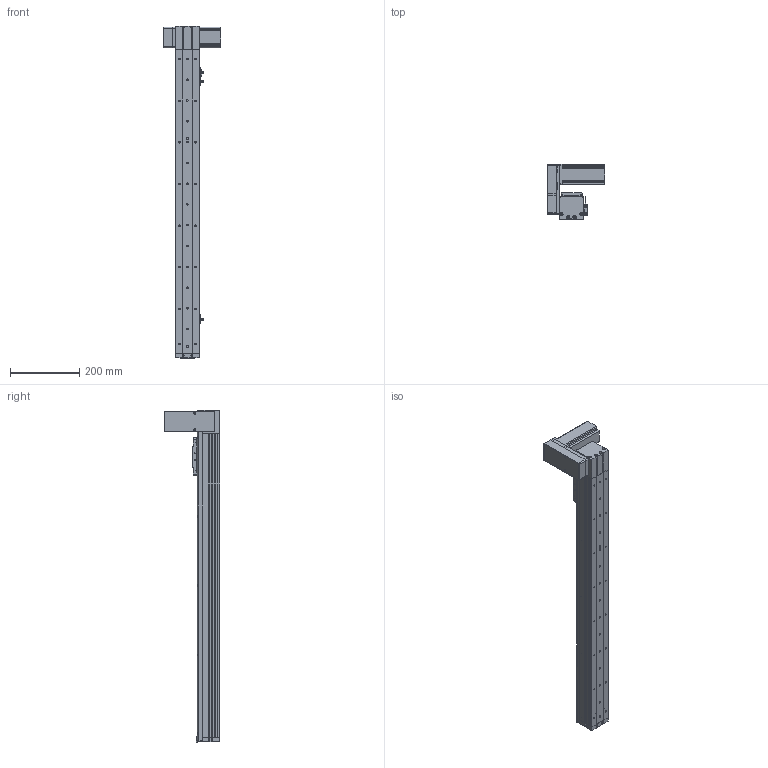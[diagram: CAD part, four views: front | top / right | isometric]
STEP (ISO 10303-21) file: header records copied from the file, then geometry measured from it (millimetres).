
FILE_DESCRIPTION (( 'STEP AP214' ), '1' );
FILE_NAME ('KSD68BS-S700-MRU-CR.STEP', '2019-08-28T06:21:35', ( '微软用户' ), ( '微软中国' ), 'SwSTEP 2.0', 'SolidWorks 2014', '' );
FILE_SCHEMA (( 'AUTOMOTIVE_DESIGN' ));
Length unit declared in the file: millimetre
Products named in the file (14): KSD68BS 700行程侧板全封闭; 68宽单导轨全封闭同步带端板; 68单导轨全封闭同步带电机座右; 68单导轨全封闭同步带安装板; 悵誘欶奻狟殏; 68遵裔啣揤啣1; KSD68BS 700行程盖板全封闭; 68宽马达安装板连板上折同步带; 感应片68宽全封闭; U倰嫖萇EEㄜSX672; 台达ECMA－C20604AS伺服电机（400W); KSD68BS 700行程底板全封闭; KSD68BS-S700-MRU-CR; 68宽单导轨全封闭丝杆传动安装板1防护罩
Assembly tree (16 placements, depth 2):
  KSD68BS-S700-MRU-CR
    KSD68BS 700行程底板全封闭
    台达ECMA－C20604AS伺服电机（400W)
    U倰嫖萇EEㄜSX672  x3
    感应片68宽全封闭
    68宽马达安装板连板上折同步带
    悵誘欶奻狟殏
    68单导轨全封闭同步带安装板
    68单导轨全封闭同步带电机座右
    68宽单导轨全封闭同步带端板
    KSD68BS 700行程侧板全封闭  x2
    68宽单导轨全封闭丝杆传动安装板1防护罩
    KSD68BS 700行程盖板全封闭
    68遵裔啣揤啣1
Bounding box: 167.2 x 159.5 x 958.1 mm (x, y, z)
Volume: 2131149.1 mm3; surface area: 779664.6 mm2
Topology: 17 solids, 17 shells, 1439 faces, 4086 edges, 2619 vertices
Faces by surface type: cylinder 671, plane 620, cone 148
Entity records: 45702 total; most frequent: CARTESIAN_POINT 7746, DIRECTION 6881, ORIENTED_EDGE 6586, EDGE_CURVE 3293, AXIS2_PLACEMENT_3D 2468, VERTEX_POINT 2161, VECTOR 1945, LINE 1945
